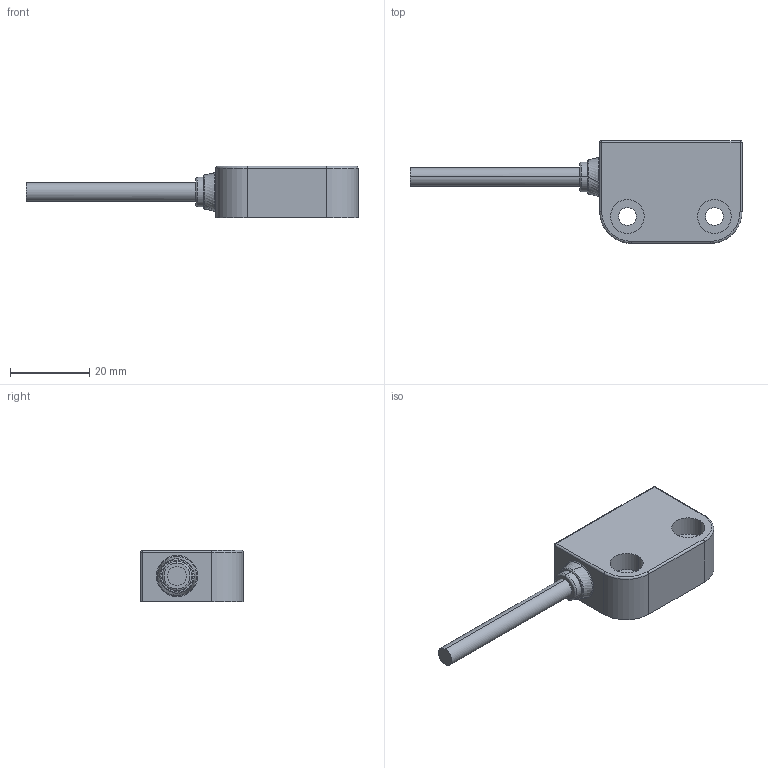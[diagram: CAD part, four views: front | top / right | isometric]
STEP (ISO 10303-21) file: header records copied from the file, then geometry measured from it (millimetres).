
FILE_DESCRIPTION (( 'STEP AP203' ), '1' );
FILE_NAME ('BT36-Ö÷½á¹¹.STEP', '2022-07-18T03:36:59', ( '' ), ( '' ), 'SwSTEP 2.0', 'SolidWorks 2016', '' );
FILE_SCHEMA (( 'CONFIG_CONTROL_DESIGN' ));
Length unit declared in the file: millimetre
Products named in the file (6): 磁性安全开关壳体-导线式; 磁性安全开关-基板; 絳盄; BT36-翋賦凳; 躇猾杶; 陔遴裔啣
Assembly tree (5 placements, depth 2):
  BT36-翋賦凳
    磁性安全开关壳体-导线式
    磁性安全开关-基板
    陔遴裔啣
    絳盄
    躇猾杶
Bounding box: 84 x 26 x 13 mm (x, y, z)
Volume: 7329.7 mm3; surface area: 8854.9 mm2
Topology: 5 solids, 5 shells, 366 faces, 911 edges, 579 vertices
Faces by surface type: plane 196, cylinder 129, torus 18, cone 16, bspline 5, sphere 2
Entity records: 11602 total; most frequent: DIRECTION 1993, CARTESIAN_POINT 1953, ORIENTED_EDGE 1818, EDGE_CURVE 909, AXIS2_PLACEMENT_3D 723, VERTEX_POINT 579, VECTOR 547, LINE 547
